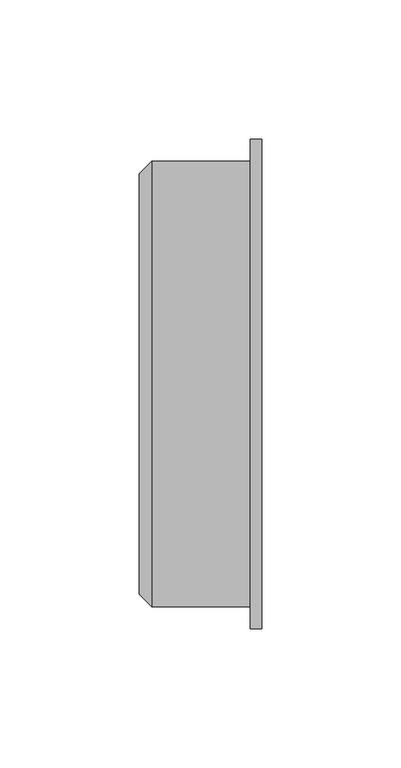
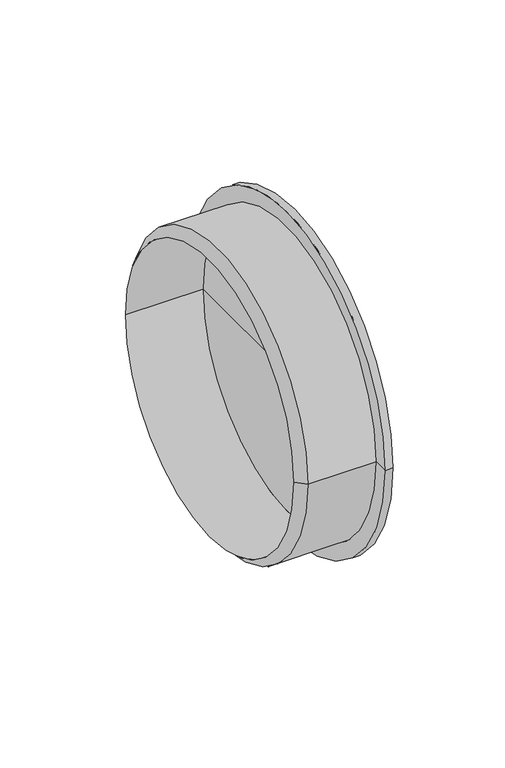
"""IFC4 building model written with IfcOpenShell, lengths in millimetres: pipe fitting geometry, MarleyPlumbingAndDrainage_PipeFitting_dBlueSocketPlug : VKK-160-000-00D - 160mm - Blue."""

import ifcopenshell
import ifcopenshell.guid

model = None  # the IFC model being written
_history = None  # IfcOwnerHistory: only IFC2X3 demands one
_inside = {}  # id of a spatial element -> (the spatial element, [elements in it])
_under = {}  # id of a project, library or spatial element -> (it, [spatial elements below it])
_declared = {}  # id of a project -> (the project, [libraries it declares])
_typed = {}  # id of a type object -> (the type object, [elements of that type])
_made_of = {}  # id of a material, layer set ... -> (it, [elements and type objects made of it])


def new_model(schema):
    """Start an empty IFC model of exactly this schema.

    Asked for "IFC4X3", IfcOpenShell would pick the latest addendum, in which some entities
    have other attributes; the version numbers below select the first issue.
    IFC2X3 requires an IfcOwnerHistory on every rooted entity: one is made here for all.
    """
    global model, _history
    if schema == "IFC4X3":
        model = ifcopenshell.file(schema_version=(4, 3, 0, 0))
    else:
        model = ifcopenshell.file(schema=schema)
    _inside.clear()
    _under.clear()
    _declared.clear()
    _typed.clear()
    _made_of.clear()
    _history = None
    if model.schema == "IFC2X3":
        org = make("IfcOrganization", Name="unknown")
        user = make(
            "IfcPersonAndOrganization",
            ThePerson=make("IfcPerson", FamilyName="unknown"),
            TheOrganization=org,
        )
        app = make(
            "IfcApplication",
            ApplicationDeveloper=org,
            Version="unknown",
            ApplicationFullName="unknown",
            ApplicationIdentifier="unknown",
        )
        _history = make(
            "IfcOwnerHistory",
            OwningUser=user,
            OwningApplication=app,
            ChangeAction="ADDED",
            CreationDate=0,
        )
    return model


def make(cls, **values):
    """One entity of the class cls with the attributes given. An attribute that is None is left unset."""
    return model.create_entity(
        cls, **{name: value for name, value in values.items() if value is not None}
    )


def rooted(cls, **values):
    """An entity with a GlobalId (a new one), such as an element, a storey or a relation."""
    return make(cls, GlobalId=ifcopenshell.guid.new(), OwnerHistory=_history, **values)


def si_unit(unit_type, name, prefix=None):
    """IfcSIUnit, for example si_unit("LENGTHUNIT", "METRE", prefix="MILLI")."""
    return make("IfcSIUnit", UnitType=unit_type, Prefix=prefix, Name=name)


def assignment(units):
    """IfcUnitAssignment: the units of a project."""
    return None if units is None else make("IfcUnitAssignment", Units=units)


def point(xyz):
    """IfcCartesianPoint."""
    return None if xyz is None else make("IfcCartesianPoint", Coordinates=xyz)


def direction(xyz):
    """IfcDirection."""
    return None if xyz is None else make("IfcDirection", DirectionRatios=xyz)


def frame(location, z_axis=None, x_axis=None):
    """IfcAxis2Placement3D, a coordinate frame: its origin and axes. An axis left out is left unset."""
    return make(
        "IfcAxis2Placement3D",
        Location=point(location),
        Axis=direction(z_axis),
        RefDirection=direction(x_axis),
    )


def origin():
    """The frame at (0, 0, 0) with its axes left unset."""
    return frame((0.0, 0.0, 0.0))


def place(relative_to, where):
    """IfcLocalPlacement: puts the frame where relative to a parent placement (None: the world)."""
    return make(
        "IfcLocalPlacement", PlacementRelTo=relative_to, RelativePlacement=where
    )


def context(
    kind, dimensions, precision=None, world=None, true_north=None, identifier=None
):
    """IfcGeometricRepresentationContext, for example the 3D "Model" context."""
    return make(
        "IfcGeometricRepresentationContext",
        ContextIdentifier=identifier,
        ContextType=kind,
        CoordinateSpaceDimension=dimensions,
        Precision=precision,
        WorldCoordinateSystem=world,
        TrueNorth=true_north,
    )


def project(units=None, contexts=None):
    """IfcProject with its units and contexts."""
    return rooted(
        "IfcProject",
        Name="project",
        RepresentationContexts=contexts,
        UnitsInContext=assignment(units),
    )


def spatial(cls, under=None, at=None, **own):
    """A site, building, storey or space (cls), placed at a placement, below another one or the project."""
    s = rooted(cls, ObjectPlacement=at, **own)
    if under is not None:
        _under.setdefault(under.id(), (under, []))[1].append(s)
    return s


def polyline(points):
    """IfcPolyline through the points."""
    return make("IfcPolyline", Points=[point(p) for p in points])


def circle_curve(where, radius):
    """IfcCircle in the frame where."""
    return make("IfcCircle", Position=where, Radius=radius)


def shape(context_of_items, identifier, shape_type, items):
    """IfcShapeRepresentation: the items that make up one representation, for example the "Body"."""
    return make(
        "IfcShapeRepresentation",
        ContextOfItems=context_of_items,
        RepresentationIdentifier=identifier,
        RepresentationType=shape_type,
        Items=items,
    )


def source(mapping_origin, context_of_items, identifier, shape_type, items):
    """IfcRepresentationMap: a shape defined once, which mapped items show again and again."""
    return make(
        "IfcRepresentationMap",
        MappingOrigin=mapping_origin,
        MappedRepresentation=shape(context_of_items, identifier, shape_type, items),
    )


def transform(
    local_origin,
    x_axis=None,
    y_axis=None,
    z_axis=None,
    scale=None,
    scale2=None,
    scale3=None,
    uniform=True,
):
    """IfcCartesianTransformationOperator3D, or its non-uniform kind. x_axis, y_axis, z_axis: its Axis1, 2, 3."""
    if uniform:
        return make(
            "IfcCartesianTransformationOperator3D",
            Axis1=direction(x_axis),
            Axis2=direction(y_axis),
            LocalOrigin=point(local_origin),
            Scale=scale,
            Axis3=direction(z_axis),
        )
    return make(
        "IfcCartesianTransformationOperator3DnonUniform",
        Axis1=direction(x_axis),
        Axis2=direction(y_axis),
        LocalOrigin=point(local_origin),
        Scale=scale,
        Axis3=direction(z_axis),
        Scale2=scale2,
        Scale3=scale3,
    )


def mapped(mapping_source, mapping_target):
    """IfcMappedItem: shows the shape of a source again, moved by a transform."""
    return make(
        "IfcMappedItem", MappingSource=mapping_source, MappingTarget=mapping_target
    )


def made_of(thing, what):
    """Note that an element or type object is made of a material, layer set ...; save() writes the relation."""
    if what is not None:
        _made_of.setdefault(what.id(), (what, []))[1].append(thing)
    return thing


def element(
    cls,
    number,
    at=None,
    inside=None,
    cuts=None,
    type_object=None,
    material=None,
    context=None,
    identifier="Body",
    shape_type=None,
    held_by="IfcProductDefinitionShape",
    body=None,
    shapes=None,
    **own,
):
    """One element of the class cls, such as IfcWall. Its Tag is "e" and its number.

    at: its placement. inside: the storey or other place that contains it. cuts: it is an
    opening in that element (IfcRelVoidsElement). A single representation is given by context,
    identifier, shape_type and body (its items); several are given by shapes. held_by: the class
    of the entity that holds the representations. save() writes the other relations.
    """
    e = rooted(cls, Tag="e%d" % number, ObjectPlacement=at, **own)
    if body is not None:
        shapes = [shape(context, identifier, shape_type, body)]
    if shapes is not None:
        e.Representation = make(held_by, Representations=shapes)
    if inside is not None:
        _inside.setdefault(inside.id(), (inside, []))[1].append(e)
    if cuts is not None:
        rooted(
            "IfcRelVoidsElement", RelatingBuildingElement=cuts, RelatedOpeningElement=e
        )
    if type_object is not None:
        _typed.setdefault(type_object.id(), (type_object, []))[1].append(e)
    return made_of(e, material)


def aggregate(whole, parts):
    """IfcRelAggregates: a whole, such as a stair, and the parts it consists of."""
    return rooted("IfcRelAggregates", RelatingObject=whole, RelatedObjects=parts)


def save(model, path):
    """Write the relations noted so far, then the file.

    IfcRelAggregates (storeys below a building ...), IfcRelContainedInSpatialStructure (elements
    in a storey), IfcRelDefinesByType, IfcRelAssociatesMaterial and IfcRelDeclares: one each for
    every whole, place, type object, material and project.
    """
    for whole, parts in _under.values():
        aggregate(whole, parts)
    for where, things in _inside.values():
        rooted(
            "IfcRelContainedInSpatialStructure",
            RelatedElements=things,
            RelatingStructure=where,
        )
    for kind, things in _typed.values():
        rooted("IfcRelDefinesByType", RelatedObjects=things, RelatingType=kind)
    for what, things in _made_of.values():
        rooted("IfcRelAssociatesMaterial", RelatedObjects=things, RelatingMaterial=what)
    for by, libraries in _declared.values():
        rooted("IfcRelDeclares", RelatingContext=by, RelatedDefinitions=libraries)
    model.write(path)


def plane_surface(at):
    """IfcPlane: the flat surface through the origin of the frame at, square to its z axis."""
    return make("IfcPlane", Position=at)


def cylinder_surface(at, radius):
    """IfcCylindricalSurface: all points at the distance radius from the z axis of the frame at."""
    return make("IfcCylindricalSurface", Position=at, Radius=radius)


def revolved_surface(curve, axis_point, axis_direction):
    """IfcSurfaceOfRevolution: the curve turned about the line through axis_point along axis_direction."""
    return make(
        "IfcSurfaceOfRevolution",
        SweptCurve=make("IfcArbitraryOpenProfileDef", ProfileType="CURVE", Curve=curve),
        AxisPosition=make("IfcAxis1Placement", Location=point(axis_point), Axis=direction(axis_direction)),
    )


def advanced_brep(points, edges, surfaces, faces):
    """IfcAdvancedBrep: a solid bounded by faces that lie on surfaces and meet in shared edges.

    An edge is (start, end): straight between two places in points (the first is 0);
    or (start, end, curve); or (start, end, curve, False) where it runs against its curve.
    A face is (place in surfaces, loops), or (place, loops, False) where it looks against
    its surface's normal. A loop lists edges by number (the first is 1), with a minus sign
    where the edge is run from its end to its start. The first loop is the outer one.
    """
    corners = [point(p) for p in points]
    vertices = [make("IfcVertexPoint", VertexGeometry=c) for c in corners]
    made = []
    for start, end, *more in edges:
        made.append(
            make(
                "IfcEdgeCurve",
                EdgeStart=vertices[start],
                EdgeEnd=vertices[end],
                EdgeGeometry=more[0] if more else make("IfcPolyline", Points=[corners[start], corners[end]]),
                SameSense=more[1] if len(more) > 1 else True,
            )
        )
    hull = []
    for where, loops, *sense in faces:
        bounds = []
        for j, loop in enumerate(loops):
            ring = [make("IfcOrientedEdge", EdgeElement=made[abs(k) - 1], Orientation=k > 0) for k in loop]
            bounds.append(
                make(
                    "IfcFaceOuterBound" if j == 0 else "IfcFaceBound",
                    Bound=make("IfcEdgeLoop", EdgeList=ring),
                    Orientation=True,
                )
            )
        hull.append(make("IfcAdvancedFace", Bounds=bounds, FaceSurface=surfaces[where], SameSense=sense[0] if sense else True))
    return make("IfcAdvancedBrep", Outer=make("IfcClosedShell", CfsFaces=hull))


def pipe_fitting_5f3f304f(model_context):
    return source(origin(), model_context, "Body", "AdvancedBrep", [
        advanced_brep(
        [(-58.8253818, -75.5, 0.0), (-58.8253818, 75.5, 0.0), (-54.3253818, 80.0, 0.0), (-54.3253818, -80.0, 0.0), (-18.8253818, -75.5, 0.0), (-18.8253818, 75.5, 0.0), (-18.8253818, 0.0, 0.0), (-14.8253818, -88.0, 0.0), (-14.8253818, 88.0, 0.0), (-14.8253818, 0.0, 0.0), (-18.8253818, -88.0, 0.0), (-18.8253818, 88.0, 0.0), (-18.8253818, -80.0, 0.0), (-18.8253818, 80.0, 0.0)],
        [
            (0, 1, circle_curve(frame((-58.8253818, 0.0, 0.0), z_axis=(1.0, 0.0, 0.0), x_axis=(0.0, 1.0, 0.0)), 75.5)),
            (1, 2),
            (2, 3, circle_curve(frame((-54.3253818, 0.0, 0.0), z_axis=(-1.0, 0.0, 0.0), x_axis=(0.0, 1.0, 0.0)), 80.0)),
            (3, 0),
            (1, 0, circle_curve(frame((-58.8253818, 0.0, 0.0), z_axis=(1.0, 0.0, 0.0), x_axis=(0.0, 1.0, 0.0)), 75.5)),
            (3, 2, circle_curve(frame((-54.3253818, 0.0, 0.0), z_axis=(-1.0, 0.0, 0.0), x_axis=(0.0, 1.0, 0.0)), 80.0)),
            (4, 5, circle_curve(frame((-18.8253818, 0.0, 0.0), z_axis=(1.0, 0.0, 0.0), x_axis=(0.0, 1.0, 0.0)), 75.5)),
            (5, 1),
            (0, 4),
            (5, 4, circle_curve(frame((-18.8253818, 0.0, 0.0), z_axis=(1.0, 0.0, 0.0), x_axis=(0.0, 1.0, 0.0)), 75.5)),
            (6, 5),
            (4, 6),
            (7, 8, circle_curve(frame((-14.8253818, 0.0, 0.0), z_axis=(1.0, 0.0, 0.0), x_axis=(0.0, 1.0, 0.0)), 88.0)),
            (8, 9),
            (9, 7),
            (8, 7, circle_curve(frame((-14.8253818, 0.0, 0.0), z_axis=(1.0, 0.0, 0.0), x_axis=(0.0, 1.0, 0.0)), 88.0)),
            (10, 11, circle_curve(frame((-18.8253818, 0.0, 0.0), z_axis=(1.0, 0.0, 0.0), x_axis=(0.0, 1.0, 0.0)), 88.0)),
            (11, 8),
            (7, 10),
            (11, 10, circle_curve(frame((-18.8253818, 0.0, 0.0), z_axis=(1.0, 0.0, 0.0), x_axis=(0.0, 1.0, 0.0)), 88.0)),
            (12, 13, circle_curve(frame((-18.8253818, 0.0, 0.0), z_axis=(1.0, 0.0, 0.0), x_axis=(0.0, 1.0, 0.0)), 80.0)),
            (13, 11),
            (10, 12),
            (13, 12, circle_curve(frame((-18.8253818, 0.0, 0.0), z_axis=(1.0, 0.0, 0.0), x_axis=(0.0, 1.0, 0.0)), 80.0)),
            (2, 13),
            (12, 3),
        ],
        [
            revolved_surface(polyline([(-54.3253818, 80.0, 0.0), (-58.8253818, 75.5, 0.0)]), (1985.0, 0.0, 0.0), (-1.0, 0.0, 0.0)),
            revolved_surface(polyline([(-58.82538180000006, 75.5, 0.0), (-18.82538180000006, 75.5, 0.0)]), (1985.0, 0.0, 0.0), (-1.0, 0.0, 0.0)),
            plane_surface(frame((-18.8253818, 0.0, 0.0), z_axis=(-1.0, 0.0, 0.0), x_axis=(0.0, 1.0, 0.0))),
            plane_surface(frame((-14.8253818, 0.0, 0.0), z_axis=(1.0, 0.0, 0.0), x_axis=(0.0, 1.0, 0.0))),
            cylinder_surface(frame((1985.0, 0.0, 0.0), z_axis=(-1.0, 0.0, 0.0), x_axis=(0.0, 1.0, 0.0)), 88.0),
            cylinder_surface(frame((1985.0, 0.0, 0.0), z_axis=(-1.0, 0.0, 0.0), x_axis=(0.0, 1.0, 0.0)), 80.0),
        ],
        [
            (0, [[1, 2, 3, 4]]),
            (0, [[5, -4, 6, -2]]),
            (1, [[7, 8, -1, 9]]),
            (1, [[10, -9, -5, -8]]),
            (2, [[11, -7, 12]]),
            (2, [[-12, -10, -11]]),
            (3, [[13, 14, 15]]),
            (3, [[16, -15, -14]]),
            (4, [[17, 18, -13, 19]]),
            (4, [[20, -19, -16, -18]]),
            (2, [[21, 22, -17, 23]]),
            (2, [[24, -23, -20, -22]]),
            (5, [[-3, 25, -21, 26]]),
            (5, [[-6, -26, -24, -25]]),
        ],
    ),
    ])


if __name__ == "__main__":
    model = new_model("IFC4")
    model_context = context("Model", 3, world=origin())
    ifc_project = project(units=[si_unit("LENGTHUNIT", "METRE", prefix="MILLI")], contexts=[model_context])
    site = spatial("IfcSite", under=ifc_project)
    building = spatial("IfcBuilding", under=site)
    placement = place(None, origin())
    pipe_fitting_shape = pipe_fitting_5f3f304f(model_context)
    element("IfcPipeFitting", 1, ObjectType="MarleyPlumbingAndDrainage_PipeFitting_dBlueSocketPlug : VKK-160-000-00D - 160mm - Blue", at=placement, inside=building, context=model_context, shape_type="MappedRepresentation", body=[
        mapped(pipe_fitting_shape, transform((0.0, 0.0, 0.0), x_axis=(1.0, 0.0, 0.0), y_axis=(0.0, 1.0, 0.0), z_axis=(0.0, 0.0, 1.0))),
    ])
    save(model, "model.ifc")
